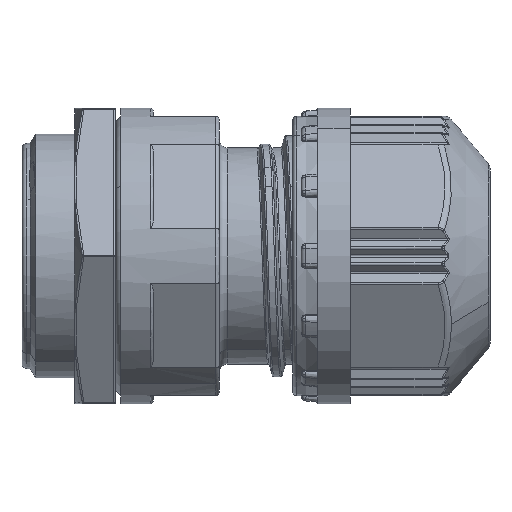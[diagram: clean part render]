
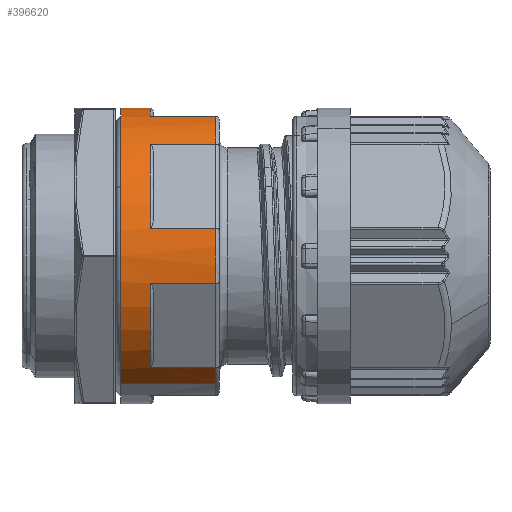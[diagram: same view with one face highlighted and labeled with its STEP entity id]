
A CAD part, front view. The second image highlights one B-rep face of the part: STEP entity #396620.
In plain terms, the highlighted cylindrical face has radius 9 mm (diameter 18 mm), a partial arc.
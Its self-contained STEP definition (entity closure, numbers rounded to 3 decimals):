
#2700=CARTESIAN_POINT('',(0.,0.,0.));
#2710=DIRECTION('',(0.,-1.,0.));
#2720=DIRECTION('',(1.,0.,0.));
#2730=AXIS2_PLACEMENT_3D('',#2700,#2710,#2720);
#2740=CIRCLE('',#2730,9.);
#2750=CARTESIAN_POINT('',(9.,0.,0.));
#2760=VERTEX_POINT('',#2750);
#2770=CARTESIAN_POINT('',(-9.,0.,0.));
#2780=VERTEX_POINT('',#2770);
#2790=EDGE_CURVE('',#2760,#2780,#2740,.T.);
#22270=CARTESIAN_POINT('',(5.882,-1.8,6.812));
#22280=VERTEX_POINT('',#22270);
#22660=CARTESIAN_POINT('',(8.84,-1.8,1.688));
#22670=VERTEX_POINT('',#22660);
#22700=CARTESIAN_POINT('',(8.84,0.,1.688));
#22710=DIRECTION('',(0.,-1.,0.));
#22720=VECTOR('',#22710,1.);
#22730=LINE('',#22700,#22720);
#22740=CARTESIAN_POINT('',(8.84,-5.8,
1.688));
#22750=VERTEX_POINT('',#22740);
#22760=EDGE_CURVE('',#22670,#22750,#22730,.T.);
#22820=CARTESIAN_POINT('',(5.882,-5.8,
6.812));
#22830=VERTEX_POINT('',#22820);
#22860=CARTESIAN_POINT('',(5.882,0.,6.812));
#22870=DIRECTION('',(0.,-1.,0.));
#22880=VECTOR('',#22870,1.);
#22890=LINE('',#22860,#22880);
#22900=EDGE_CURVE('',#22280,#22830,#22890,.T.);
#23500=CARTESIAN_POINT('',(-2.958,-1.8,8.5));
#23510=VERTEX_POINT('',#23500);
#23890=CARTESIAN_POINT('',(2.958,-1.8,8.5));
#23900=VERTEX_POINT('',#23890);
#23930=CARTESIAN_POINT('',(2.958,0.,8.5));
#23940=DIRECTION('',(0.,-1.,0.));
#23950=VECTOR('',#23940,1.);
#23960=LINE('',#23930,#23950);
#23970=CARTESIAN_POINT('',(2.958,-5.8,8.5));
#23980=VERTEX_POINT('',#23970);
#23990=EDGE_CURVE('',#23900,#23980,#23960,.T.);
#24050=CARTESIAN_POINT('',(-2.958,-5.8,8.5));
#24060=VERTEX_POINT('',#24050);
#24090=CARTESIAN_POINT('',(-2.958,0.,8.5));
#24100=DIRECTION('',(0.,-1.,0.));
#24110=VECTOR('',#24100,1.);
#24120=LINE('',#24090,#24110);
#24130=EDGE_CURVE('',#23510,#24060,#24120,.T.);
#24380=CARTESIAN_POINT('',(-5.882,-5.8,
6.812));
#24390=VERTEX_POINT('',#24380);
#24400=CARTESIAN_POINT('',(-8.84,-5.8,
1.688));
#24410=VERTEX_POINT('',#24400);
#24440=CARTESIAN_POINT('',(-8.84,0.,1.688));
#24450=DIRECTION('',(0.,-1.,0.));
#24460=VECTOR('',#24450,1.);
#24470=LINE('',#24440,#24460);
#24480=CARTESIAN_POINT('',(-8.84,-1.8,1.688));
#24490=VERTEX_POINT('',#24480);
#24500=EDGE_CURVE('',#24490,#24410,#24470,.T.);
#25230=CARTESIAN_POINT('',(-5.882,-1.8,6.812));
#25240=VERTEX_POINT('',#25230);
#25270=CARTESIAN_POINT('',(-5.882,0.,6.812));
#25280=DIRECTION('',(0.,-1.,0.));
#25290=VECTOR('',#25280,1.);
#25300=LINE('',#25270,#25290);
#25310=EDGE_CURVE('',#25240,#24390,#25300,.T.);
#37780=CARTESIAN_POINT('',(0.,-1.8,0.));
#37790=DIRECTION('',(0.,-1.,0.));
#37800=DIRECTION('',(1.,0.,0.));
#37810=AXIS2_PLACEMENT_3D('',#37780,#37790,#37800);
#37820=CIRCLE('',#37810,9.);
#37830=EDGE_CURVE('',#25240,#24490,#37820,.T.);
#40070=CARTESIAN_POINT('',(0.,-5.8,0.));
#40080=DIRECTION('',(0.,-1.,0.));
#40090=DIRECTION('',(1.,0.,0.));
#40100=AXIS2_PLACEMENT_3D('',#40070,#40080,#40090);
#40110=CIRCLE('',#40100,9.);
#40120=CARTESIAN_POINT('',(9.,-5.8,0.));
#40130=VERTEX_POINT('',#40120);
#40140=EDGE_CURVE('',#40130,#22750,#40110,.T.);
#46700=CARTESIAN_POINT('',(0.,-1.8,0.));
#46710=DIRECTION('',(0.,-1.,0.));
#46720=DIRECTION('',(1.,0.,0.));
#46730=AXIS2_PLACEMENT_3D('',#46700,#46710,#46720);
#46740=CIRCLE('',#46730,9.);
#46750=EDGE_CURVE('',#23900,#23510,#46740,.T.);
#47810=CARTESIAN_POINT('',(0.,-5.8,0.));
#47820=DIRECTION('',(0.,-1.,0.));
#47830=DIRECTION('',(1.,0.,0.));
#47840=AXIS2_PLACEMENT_3D('',#47810,#47820,#47830);
#47850=CIRCLE('',#47840,9.);
#47860=CARTESIAN_POINT('',(-9.,-5.8,0.));
#47870=VERTEX_POINT('',#47860);
#47900=EDGE_CURVE('',#24410,#47870,#47850,.T.);
#49790=CARTESIAN_POINT('',(0.,-5.8,0.));
#49800=DIRECTION('',(0.,-1.,0.));
#49810=DIRECTION('',(1.,0.,0.));
#49820=AXIS2_PLACEMENT_3D('',#49790,#49800,#49810);
#49830=CIRCLE('',#49820,9.);
#49840=EDGE_CURVE('',#24060,#24390,#49830,.T.);
#53810=CARTESIAN_POINT('',(0.,-5.8,0.));
#53820=DIRECTION('',(0.,-1.,0.));
#53830=DIRECTION('',(1.,0.,0.));
#53840=AXIS2_PLACEMENT_3D('',#53810,#53820,#53830);
#53850=CIRCLE('',#53840,9.);
#53860=EDGE_CURVE('',#22830,#23980,#53850,.T.);
#57010=CARTESIAN_POINT('',(0.,-1.8,0.));
#57020=DIRECTION('',(0.,-1.,0.));
#57030=DIRECTION('',(1.,0.,0.));
#57040=AXIS2_PLACEMENT_3D('',#57010,#57020,#57030);
#57050=CIRCLE('',#57040,9.);
#57060=EDGE_CURVE('',#22670,#22280,#57050,.T.);
#396290=CARTESIAN_POINT('',(0.,0.,0.));
#396300=DIRECTION('',(0.,-1.,0.));
#396310=DIRECTION('',(1.,0.,0.));
#396320=AXIS2_PLACEMENT_3D('',#396290,#396300,#396310);
#396330=CYLINDRICAL_SURFACE('',#396320,9.);
#396340=ORIENTED_EDGE('',*,*,#49840,.F.);
#396350=ORIENTED_EDGE('',*,*,#25310,.T.);
#396360=ORIENTED_EDGE('',*,*,#37830,.F.);
#396370=ORIENTED_EDGE('',*,*,#24500,.F.);
#396380=ORIENTED_EDGE('',*,*,#47900,.F.);
#396390=CARTESIAN_POINT('',(-9.,0.,0.));
#396400=DIRECTION('',(0.,-1.,0.));
#396410=VECTOR('',#396400,1.);
#396420=LINE('',#396390,#396410);
#396430=EDGE_CURVE('',#2780,#47870,#396420,.T.);
#396440=ORIENTED_EDGE('',*,*,#396430,.T.);
#396450=ORIENTED_EDGE('',*,*,#2790,.T.);
#396460=CARTESIAN_POINT('',(9.,0.,0.));
#396470=DIRECTION('',(0.,-1.,0.));
#396480=VECTOR('',#396470,1.);
#396490=LINE('',#396460,#396480);
#396500=EDGE_CURVE('',#2760,#40130,#396490,.T.);
#396510=ORIENTED_EDGE('',*,*,#396500,.F.);
#396520=ORIENTED_EDGE('',*,*,#40140,.F.);
#396530=ORIENTED_EDGE('',*,*,#22760,.T.);
#396540=ORIENTED_EDGE('',*,*,#57060,.F.);
#396550=ORIENTED_EDGE('',*,*,#22900,.F.);
#396560=ORIENTED_EDGE('',*,*,#53860,.F.);
#396570=ORIENTED_EDGE('',*,*,#23990,.T.);
#396580=ORIENTED_EDGE('',*,*,#46750,.F.);
#396590=ORIENTED_EDGE('',*,*,#24130,.F.);
#396600=EDGE_LOOP('',(#396590,#396580,#396570,#396560,#396550,#396540,
#396530,#396520,#396510,#396450,#396440,#396380,#396370,#396360,#396350,
#396340));
#396610=FACE_OUTER_BOUND('',#396600,.T.);
#396620=ADVANCED_FACE('',(#396610),#396330,.T.);
